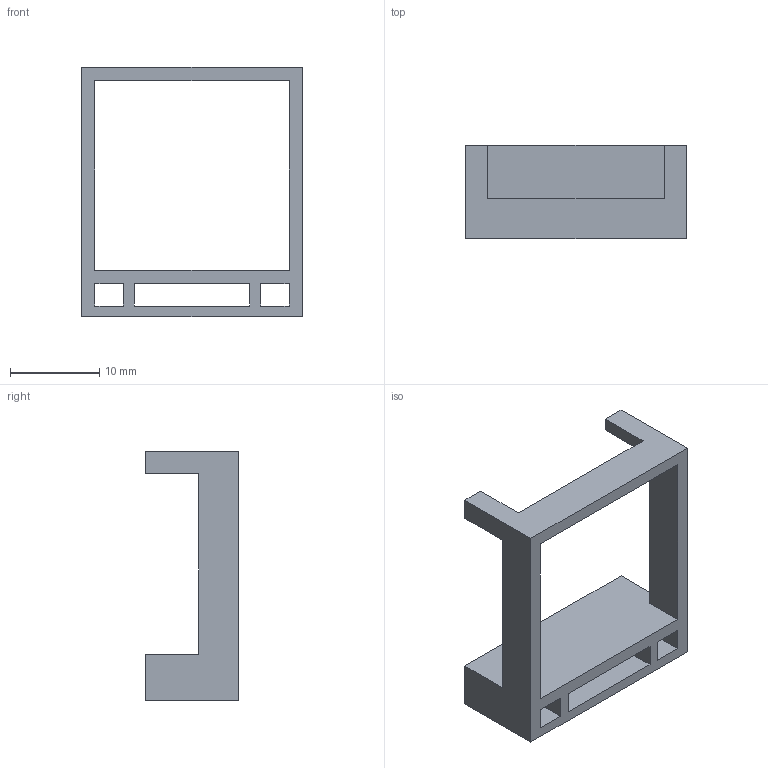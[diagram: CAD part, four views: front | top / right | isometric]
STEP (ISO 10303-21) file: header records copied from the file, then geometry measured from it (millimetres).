
FILE_DESCRIPTION((''),'2;1');
FILE_NAME('SCREENHOLD','2026-04-19T',('Administrator'),(''),'PRO/ENGINEER BY PARAMETRIC TECHNOLOGY CORPORATION, 2013150','PRO/ENGINEER BY PARAMETRIC TECHNOLOGY CORPORATION, 2013150','');
FILE_SCHEMA(('CONFIG_CONTROL_DESIGN'));
Length unit declared in the file: millimetre
Products named in the file (1): SCREENHOLD
Bounding box: 24.8 x 10.5 x 28 mm (x, y, z)
Volume: 1362.8 mm3; surface area: 2271.1 mm2
Topology: 1 solids, 1 shells, 31 faces, 90 edges, 60 vertices
Faces by surface type: plane 31
Entity records: 1058 total; most frequent: CARTESIAN_POINT 181, ORIENTED_EDGE 180, DIRECTION 152, VECTOR 90, LINE 90, EDGE_CURVE 90, VERTEX_POINT 60, EDGE_LOOP 38
